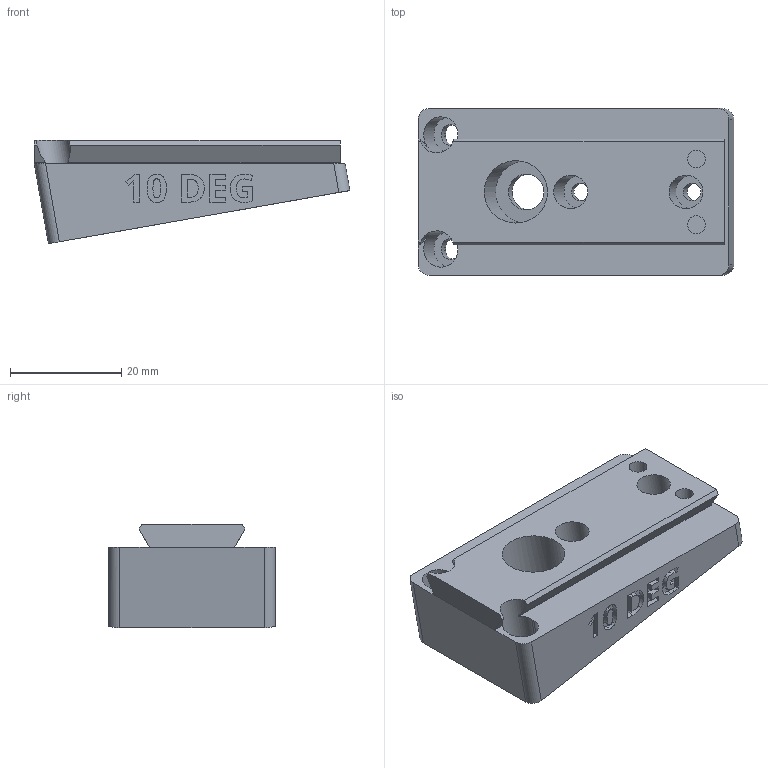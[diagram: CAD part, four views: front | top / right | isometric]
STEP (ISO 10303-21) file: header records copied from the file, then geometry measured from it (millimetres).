
FILE_DESCRIPTION(/* description */ ('STEP AP242 Edition 2','CAx-IF Rec.Pracs.---Representation and Presentation of Product Manufacturing Information (PMI)---4.0---2014-10-13','CAx-IF Rec.Pracs.---3D Tessellated Geometry---0.4---2014-09-14','2;1','CAx-IF Rec.Pracs.---User Defined Attributes---1.5---2016-08-15'),/* implementation_level */ '2;1');
FILE_NAME(/* name */ 'Camera Wedges - CAMERA MOUNTING WEDGE, POS, 10 DEG',/* time_stamp */ '2026-07-08T20:37:30Z',/* author */ (''),/* organization */ (''),/* preprocessor_version */ 'ST-DEVELOPER v20',/* originating_system */ 'ONSHAPE BY PTC INC, 1.217',/* authorisation */ ' ');
FILE_SCHEMA (('AP242_MANAGED_MODEL_BASED_3D_ENGINEERING_MIM_LF { 1 0 10303 442 3 1 4 }'));
Length unit declared in the file: metre
Products named in the file (1): CAMERA MOUNTING WEDGE, POS, 10 DEG
Bounding box: 56.72 x 30 x 18.57 mm (x, y, z)
Volume: 16635.7 mm3; surface area: 7384.2 mm2
Topology: 1 solids, 1 shells, 229 faces, 622 edges, 415 vertices
Faces by surface type: plane 131, bspline 62, cylinder 36
Full cylindrical faces by diameter (mm): 3.2 x4, 6 x2, 6.4 x1, 11.2 x1
Entity records: 7371 total; most frequent: CARTESIAN_POINT 1935, ORIENTED_EDGE 1222, DIRECTION 907, EDGE_CURVE 611, VERTEX_POINT 412, LINE 403, VECTOR 403, EDGE_LOOP 267
